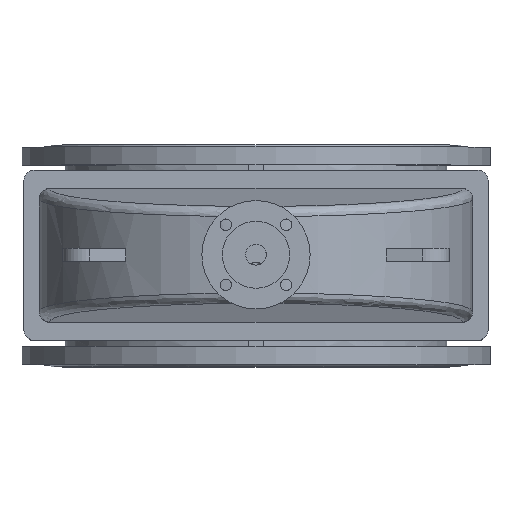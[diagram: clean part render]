
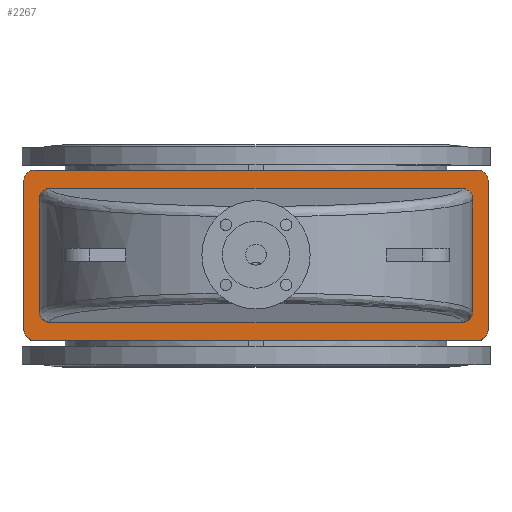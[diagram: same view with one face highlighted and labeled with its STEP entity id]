
A CAD part, top view. The second image highlights one B-rep face of the part: STEP entity #2267.
In plain terms, the highlighted planar face has unit normal (0, 0, 1).
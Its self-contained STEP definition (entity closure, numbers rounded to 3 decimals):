
#2267=ADVANCED_FACE('',(#6865,#6867),#6869,.T.);
#6865=FACE_BOUND('',#6866,.T.);
#6866=EDGE_LOOP('',(#8993,#8994,#8995,#8996,#8997,#8998,#8999,#9000));
#6867=FACE_BOUND('',#6868,.T.);
#6868=EDGE_LOOP('',(#9001,#9002,#9003,#9004,#9005,#9006,#9007,#9008));
#6869=PLANE('',#6870);
#6870=AXIS2_PLACEMENT_3D('',#6871,#6872,#6873);
#6871=CARTESIAN_POINT('',(0.,0.,866.));
#6872=DIRECTION('',(0.,-0.,1.));
#6873=DIRECTION('',(0.,1.,0.));
#8993=ORIENTED_EDGE('',*,*,#9737,.F.);
#8994=ORIENTED_EDGE('',*,*,#9750,.T.);
#8995=ORIENTED_EDGE('',*,*,#9749,.F.);
#8996=ORIENTED_EDGE('',*,*,#9747,.T.);
#8997=ORIENTED_EDGE('',*,*,#9745,.F.);
#8998=ORIENTED_EDGE('',*,*,#9743,.T.);
#8999=ORIENTED_EDGE('',*,*,#9741,.F.);
#9000=ORIENTED_EDGE('',*,*,#9738,.T.);
#9001=ORIENTED_EDGE('',*,*,#9751,.F.);
#9002=ORIENTED_EDGE('',*,*,#9752,.F.);
#9003=ORIENTED_EDGE('',*,*,#9753,.F.);
#9004=ORIENTED_EDGE('',*,*,#9754,.F.);
#9005=ORIENTED_EDGE('',*,*,#9755,.F.);
#9006=ORIENTED_EDGE('',*,*,#9756,.F.);
#9007=ORIENTED_EDGE('',*,*,#9757,.F.);
#9008=ORIENTED_EDGE('',*,*,#9758,.F.);
#9737=EDGE_CURVE('',#10795,#10793,#10797,.F.);
#9738=EDGE_CURVE('',#10798,#10793,#10799,.T.);
#9741=EDGE_CURVE('',#10798,#10801,#10803,.F.);
#9743=EDGE_CURVE('',#10804,#10801,#10806,.T.);
#9745=EDGE_CURVE('',#10804,#10807,#10809,.F.);
#9747=EDGE_CURVE('',#10810,#10807,#10812,.T.);
#9749=EDGE_CURVE('',#10810,#10813,#10815,.F.);
#9750=EDGE_CURVE('',#10795,#10813,#10816,.T.);
#9751=EDGE_CURVE('',#10817,#10818,#10819,.F.);
#9752=EDGE_CURVE('',#10820,#10817,#10821,.T.);
#9753=EDGE_CURVE('',#10822,#10820,#10823,.T.);
#9754=EDGE_CURVE('',#10824,#10822,#10825,.T.);
#9755=EDGE_CURVE('',#10826,#10824,#10827,.F.);
#9756=EDGE_CURVE('',#10828,#10826,#10829,.T.);
#9757=EDGE_CURVE('',#10830,#10828,#10831,.T.);
#9758=EDGE_CURVE('',#10818,#10830,#10832,.T.);
#10793=VERTEX_POINT('',#14163);
#10795=VERTEX_POINT('',#14167);
#10797=CIRCLE('',#14171,20.);
#10798=VERTEX_POINT('',#14175);
#10799=LINE('',#14176,#14177);
#10801=VERTEX_POINT('',#14182);
#10803=CIRCLE('',#14186,20.);
#10804=VERTEX_POINT('',#14190);
#10806=LINE('',#14194,#14195);
#10807=VERTEX_POINT('',#14197);
#10809=CIRCLE('',#14201,20.);
#10810=VERTEX_POINT('',#14205);
#10812=LINE('',#14209,#14210);
#10813=VERTEX_POINT('',#14212);
#10815=CIRCLE('',#14216,20.);
#10816=LINE('',#14220,#14221);
#10817=VERTEX_POINT('',#14223);
#10818=VERTEX_POINT('',#14224);
#10819=(BOUNDED_CURVE()B_SPLINE_CURVE(3,
(#14225,#14226,#14227,#14228),
.UNSPECIFIED.,.F.,.F.)B_SPLINE_CURVE_WITH_KNOTS((4,4),
(0.,1.),
.UNSPECIFIED.)CURVE()GEOMETRIC_REPRESENTATION_ITEM()RATIONAL_B_SPLINE_CURVE((1.,
0.805,0.805,1.))REPRESENTATION_ITEM(''));
#10820=VERTEX_POINT('',#14229);
#10821=LINE('',#14230,#14231);
#10822=VERTEX_POINT('',#14233);
#10823=(BOUNDED_CURVE()B_SPLINE_CURVE(3,
(#14234,#14235,#14236,#14237),
.UNSPECIFIED.,.F.,.F.)B_SPLINE_CURVE_WITH_KNOTS((4,4),
(0.,1.),
.UNSPECIFIED.)CURVE()GEOMETRIC_REPRESENTATION_ITEM()RATIONAL_B_SPLINE_CURVE((1.,
0.805,0.805,1.))REPRESENTATION_ITEM(''));
#10824=VERTEX_POINT('',#14238);
#10825=LINE('',#14239,#14240);
#10826=VERTEX_POINT('',#14242);
#10827=(BOUNDED_CURVE()B_SPLINE_CURVE(3,
(#14243,#14244,#14245,#14246),
.UNSPECIFIED.,.F.,.F.)B_SPLINE_CURVE_WITH_KNOTS((4,4),
(0.,1.),
.UNSPECIFIED.)CURVE()GEOMETRIC_REPRESENTATION_ITEM()RATIONAL_B_SPLINE_CURVE((1.,
0.805,0.805,1.))REPRESENTATION_ITEM(''));
#10828=VERTEX_POINT('',#14247);
#10829=LINE('',#14248,#14249);
#10830=VERTEX_POINT('',#14251);
#10831=(BOUNDED_CURVE()B_SPLINE_CURVE(3,
(#14252,#14253,#14254,#14255),
.UNSPECIFIED.,.F.,.F.)B_SPLINE_CURVE_WITH_KNOTS((4,4),
(0.,1.),
.UNSPECIFIED.)CURVE()GEOMETRIC_REPRESENTATION_ITEM()RATIONAL_B_SPLINE_CURVE((1.,
0.805,0.805,1.))REPRESENTATION_ITEM(''));
#10832=LINE('',#14256,#14257);
#14163=CARTESIAN_POINT('',(-450.,-145.,866.));
#14167=CARTESIAN_POINT('',(-430.,-165.,866.));
#14171=AXIS2_PLACEMENT_3D('',#14172,#14173,#14174);
#14172=CARTESIAN_POINT('',(-430.,-145.,866.));
#14173=DIRECTION('',(0.,-0.,1.));
#14174=DIRECTION('',(-1.,0.,0.));
#14175=CARTESIAN_POINT('',(-450.,145.,866.));
#14176=CARTESIAN_POINT('',(-450.,145.,866.));
#14177=VECTOR('',#14178,1.);
#14178=DIRECTION('',(0.,-1.,0.));
#14182=CARTESIAN_POINT('',(-430.,165.,866.));
#14186=AXIS2_PLACEMENT_3D('',#14187,#14188,#14189);
#14187=CARTESIAN_POINT('',(-430.,145.,866.));
#14188=DIRECTION('',(0.,-0.,1.));
#14189=DIRECTION('',(0.,1.,0.));
#14190=CARTESIAN_POINT('',(430.,165.,866.));
#14194=CARTESIAN_POINT('',(430.,165.,866.));
#14195=VECTOR('',#14196,1.);
#14196=DIRECTION('',(-1.,0.,0.));
#14197=CARTESIAN_POINT('',(450.,145.,866.));
#14201=AXIS2_PLACEMENT_3D('',#14202,#14203,#14204);
#14202=CARTESIAN_POINT('',(430.,145.,866.));
#14203=DIRECTION('',(0.,-0.,1.));
#14204=DIRECTION('',(1.,0.,0.));
#14205=CARTESIAN_POINT('',(450.,-145.,866.));
#14209=CARTESIAN_POINT('',(450.,-145.,866.));
#14210=VECTOR('',#14211,1.);
#14211=DIRECTION('',(0.,1.,0.));
#14212=CARTESIAN_POINT('',(430.,-165.,866.));
#14216=AXIS2_PLACEMENT_3D('',#14217,#14218,#14219);
#14217=CARTESIAN_POINT('',(430.,-145.,866.));
#14218=DIRECTION('',(0.,-0.,1.));
#14219=DIRECTION('',(0.,-1.,0.));
#14220=CARTESIAN_POINT('',(-430.,-165.,866.));
#14221=VECTOR('',#14222,1.);
#14222=DIRECTION('',(1.,0.,0.));
#14223=CARTESIAN_POINT('',(400.,-130.,866.));
#14224=CARTESIAN_POINT('',(420.,-109.924,866.));
#14225=CARTESIAN_POINT('',(420.,-109.924,866.));
#14226=CARTESIAN_POINT('',(420.,-121.684,866.));
#14227=CARTESIAN_POINT('',(411.716,-130.,866.));
#14228=CARTESIAN_POINT('',(400.,-130.,866.));
#14229=CARTESIAN_POINT('',(-400.,-130.,866.));
#14230=CARTESIAN_POINT('',(-400.,-130.,866.));
#14231=VECTOR('',#14232,1.);
#14232=DIRECTION('',(1.,0.,0.));
#14233=CARTESIAN_POINT('',(-420.,-109.924,866.));
#14234=CARTESIAN_POINT('',(-420.,-109.924,866.));
#14235=CARTESIAN_POINT('',(-420.,-121.684,866.));
#14236=CARTESIAN_POINT('',(-411.716,-130.,866.));
#14237=CARTESIAN_POINT('',(-400.,-130.,866.));
#14238=CARTESIAN_POINT('',(-420.,109.924,866.));
#14239=CARTESIAN_POINT('',(-420.,109.924,866.));
#14240=VECTOR('',#14241,1.);
#14241=DIRECTION('',(0.,-1.,0.));
#14242=CARTESIAN_POINT('',(-400.,130.,866.));
#14243=CARTESIAN_POINT('',(-420.,109.924,866.));
#14244=CARTESIAN_POINT('',(-420.,121.684,866.));
#14245=CARTESIAN_POINT('',(-411.716,130.,866.));
#14246=CARTESIAN_POINT('',(-400.,130.,866.));
#14247=CARTESIAN_POINT('',(400.,130.,866.));
#14248=CARTESIAN_POINT('',(400.,130.,866.));
#14249=VECTOR('',#14250,1.);
#14250=DIRECTION('',(-1.,0.,0.));
#14251=CARTESIAN_POINT('',(420.,109.924,866.));
#14252=CARTESIAN_POINT('',(420.,109.924,866.));
#14253=CARTESIAN_POINT('',(420.,121.684,866.));
#14254=CARTESIAN_POINT('',(411.716,130.,866.));
#14255=CARTESIAN_POINT('',(400.,130.,866.));
#14256=CARTESIAN_POINT('',(420.,-109.924,866.));
#14257=VECTOR('',#14258,1.);
#14258=DIRECTION('',(0.,1.,0.));
